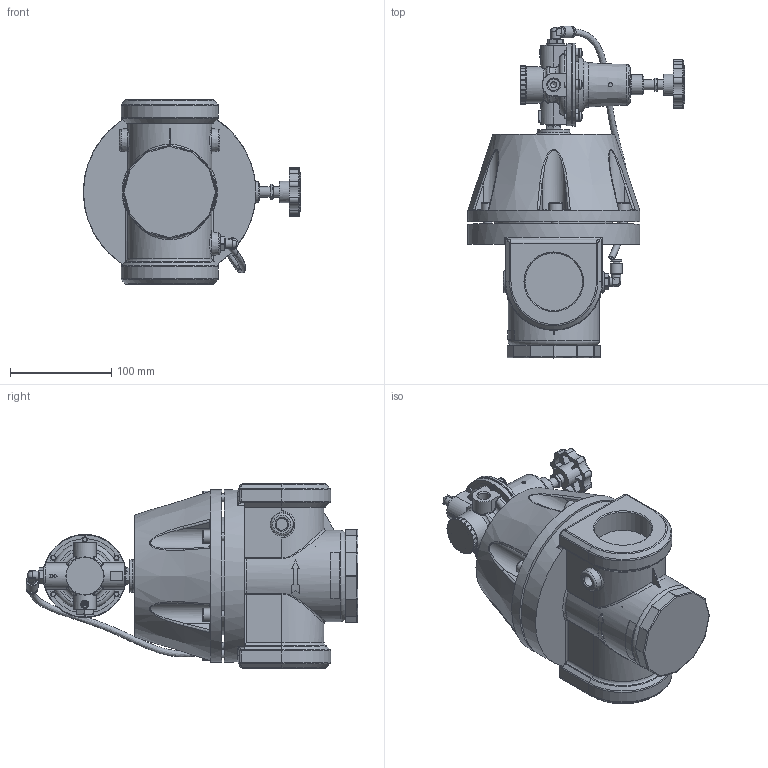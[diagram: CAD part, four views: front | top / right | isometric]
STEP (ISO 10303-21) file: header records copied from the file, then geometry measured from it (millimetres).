
FILE_DESCRIPTION(/* description */ (''),/* implementation_level */ '2;1');
FILE_NAME(/* name */ 'B-R119-16C-D_R15.step',/* time_stamp */ '2022-10-20T14:28:31+02:00',/* author */ (''),/* organization */ (''),/* preprocessor_version */ 'ST-DEVELOPER v19.2',/* originating_system */ 'Autodesk Translation Framework v11.17.0.187',/* authorisation */ '');
FILE_SCHEMA (('AUTOMOTIVE_DESIGN { 1 0 10303 214 3 1 1 }'));
Products named in the file (10): (Nicht gespeichert); B-R119-16J; ISO 4762 M8 x 12; ISO 4762 M8 x 25; ISO 4762 M8 x 20; doppelnippel-1-4 v2; 754.014-6 v1; B-R15-02x v4; 0DE50309_7; Komponente12
Assembly tree (14 placements, depth 3):
  (Nicht gespeichert)
    B-R119-16J
    ISO 4762 M8 x 12
    ISO 4762 M8 x 25
    ISO 4762 M8 x 20  x5
    doppelnippel-1-4 v2
    754.014-6 v1  x2
    B-R15-02x v4
      0DE50309_7
    Komponente12
Bounding box: 214 x 327.3 x 182 mm (x, y, z)
Volume: 3308320.2 mm3; surface area: 286280.4 mm2
Topology: 16 solids, 19 shells, 1531 faces, 3832 edges, 2399 vertices
Faces by surface type: plane 571, cylinder 460, cone 162, torus 154, bspline 148, sphere 36
Full cylindrical faces by diameter (mm): 0.5 x1, 0.85 x12, 1 x4, 1.2 x1, 4 x1, 4.567 x6, 5 x15, 5.3 x3, 5.5 x1, 5.8 x6, 6 x5, 7 x1, 7.1 x3, 7.2 x1, 8 x9, 9 x18, 9.9 x3, 10 x2, 10.5 x2, 11 x5, 11.1 x3, 11.5 x9, 11.8 x3, 13 x7, 13.157 x3, 16 x1, 18 x3, 20 x1, 21 x1, 29 x1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
Entity records: 60920 total; most frequent: CARTESIAN_POINT 27011, DIRECTION 7080, ORIENTED_EDGE 7064, EDGE_CURVE 3532, AXIS2_PLACEMENT_3D 2895, VERTEX_POINT 2214, EDGE_LOOP 1554, CIRCLE 1523
